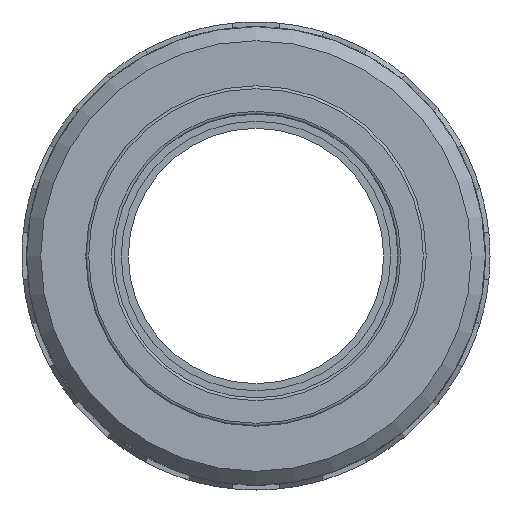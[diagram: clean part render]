
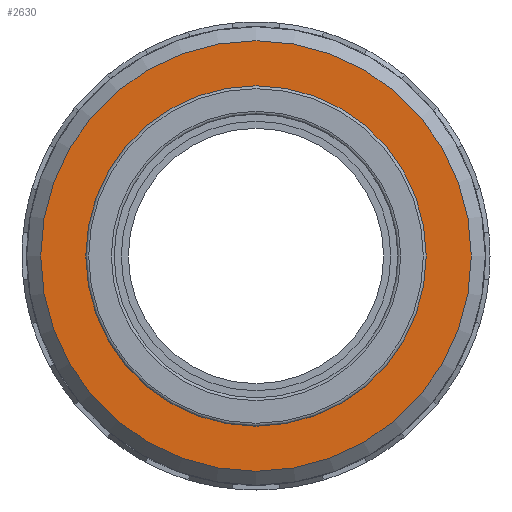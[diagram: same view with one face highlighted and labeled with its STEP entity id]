
A CAD part, left-side view. The second image highlights one B-rep face of the part: STEP entity #2630.
In plain terms, the highlighted planar face has unit normal (-1, 0, 0).
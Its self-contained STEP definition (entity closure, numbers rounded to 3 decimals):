
#66=FACE_BOUND('',#525,.T.);
#225=CIRCLE('',#2899,24.);
#228=CIRCLE('',#2906,30.36);
#368=FACE_OUTER_BOUND('',#524,.T.);
#524=EDGE_LOOP('',(#2400));
#525=EDGE_LOOP('',(#2401));
#1267=VERTEX_POINT('',#4471);
#1270=VERTEX_POINT('',#4483);
#1644=EDGE_CURVE('',#1267,#1267,#225,.T.);
#1649=EDGE_CURVE('',#1270,#1270,#228,.T.);
#2400=ORIENTED_EDGE('',*,*,#1649,.F.);
#2401=ORIENTED_EDGE('',*,*,#1644,.F.);
#2491=PLANE('',#2908);
#2630=ADVANCED_FACE('',(#368,#66),#2491,.T.);
#2899=AXIS2_PLACEMENT_3D('',#4472,#3680,#3681);
#2906=AXIS2_PLACEMENT_3D('',#4484,#3696,#3697);
#2908=AXIS2_PLACEMENT_3D('',#4486,#3700,#3701);
#3680=DIRECTION('center_axis',(-1.,0.,0.));
#3681=DIRECTION('ref_axis',(0.,0.,1.));
#3696=DIRECTION('center_axis',(1.,0.,0.));
#3697=DIRECTION('ref_axis',(0.,1.,0.));
#3700=DIRECTION('center_axis',(-1.,0.,0.));
#3701=DIRECTION('ref_axis',(0.,0.,1.));
#4471=CARTESIAN_POINT('',(-14.,-24.,0.));
#4472=CARTESIAN_POINT('Origin',(-14.,0.,0.));
#4483=CARTESIAN_POINT('',(-14.,-30.36,0.));
#4484=CARTESIAN_POINT('Origin',(-14.,0.,0.));
#4486=CARTESIAN_POINT('Origin',(-14.,-24.,0.));
